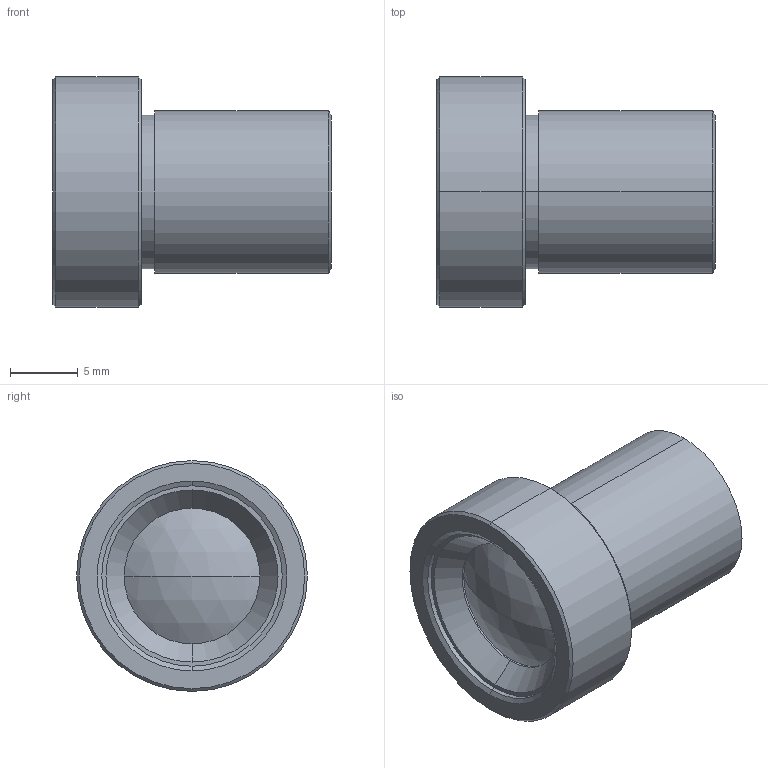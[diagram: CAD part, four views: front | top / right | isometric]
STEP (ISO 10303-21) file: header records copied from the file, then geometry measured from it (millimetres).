
FILE_DESCRIPTION (( 'STEP AP214' ), '1' );
FILE_NAME ('H0624KP.STEP', '2021-04-19T23:41:48', ( '' ), ( '' ), 'SwSTEP 2.0', 'SolidWorks 2021', '' );
FILE_SCHEMA (( 'AUTOMOTIVE_DESIGN' ));
Length unit declared in the file: millimetre
Products named in the file (1): H0624KP
Bounding box: 20.5 x 17 x 17 mm (x, y, z)
Volume: 2787.7 mm3; surface area: 1413.3 mm2
Topology: 1 solids, 1 shells, 37 faces, 76 edges, 46 vertices
Faces by surface type: cone 16, cylinder 12, plane 5, sphere 4
Entity records: 1427 total; most frequent: DIRECTION 200, CARTESIAN_POINT 160, ORIENTED_EDGE 152, AXIS2_PLACEMENT_3D 86, EDGE_CURVE 76, CIRCLE 48, VERTEX_POINT 46, EDGE_LOOP 42
